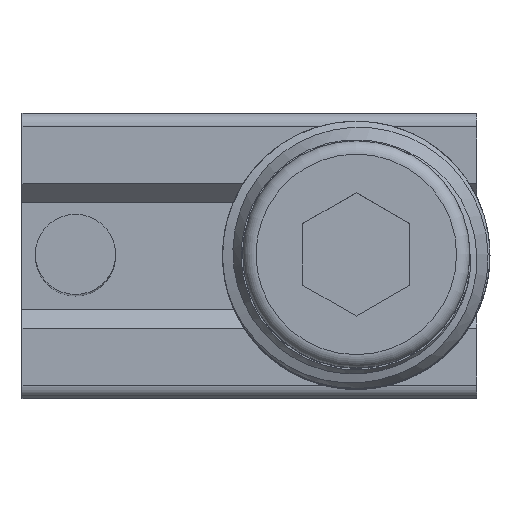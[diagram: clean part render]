
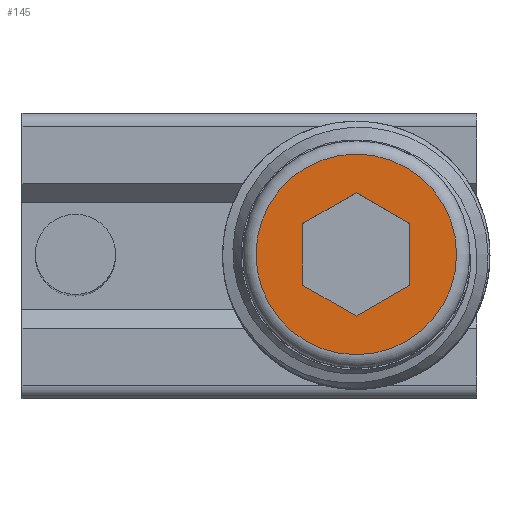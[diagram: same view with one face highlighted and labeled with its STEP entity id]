
A CAD part, top view. The second image highlights one B-rep face of the part: STEP entity #145.
In plain terms, the highlighted planar face has unit normal (0, 0, 1).
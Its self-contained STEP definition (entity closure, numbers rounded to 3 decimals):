
#145 = ADVANCED_FACE( '', ( #293, #294 ), #295, .F. );
#293 = FACE_OUTER_BOUND( '', #1179, .T. );
#294 = FACE_BOUND( '', #1180, .T. );
#295 = PLANE( '', #1181 );
#1179 = EDGE_LOOP( '', ( #1496 ) );
#1180 = EDGE_LOOP( '', ( #1497, #1498, #1499, #1500, #1501, #1502 ) );
#1181 = AXIS2_PLACEMENT_3D( '', #1503, #1504, #1505 );
#1496 = ORIENTED_EDGE( '', *, *, #1575, .T. );
#1497 = ORIENTED_EDGE( '', *, *, #1649, .F. );
#1498 = ORIENTED_EDGE( '', *, *, #1614, .F. );
#1499 = ORIENTED_EDGE( '', *, *, #1658, .F. );
#1500 = ORIENTED_EDGE( '', *, *, #1602, .F. );
#1501 = ORIENTED_EDGE( '', *, *, #1611, .F. );
#1502 = ORIENTED_EDGE( '', *, *, #1668, .F. );
#1503 = CARTESIAN_POINT( '', ( 0., 0., 5. ) );
#1504 = DIRECTION( '', ( 0., 0., -1. ) );
#1505 = DIRECTION( '', ( -1., 0., 0. ) );
#1575 = EDGE_CURVE( '', #1728, #1728, #1729, .F. );
#1602 = EDGE_CURVE( '', #1775, #1776, #1777, .T. );
#1611 = EDGE_CURVE( '', #1789, #1775, #1790, .T. );
#1614 = EDGE_CURVE( '', #1793, #1794, #1795, .T. );
#1649 = EDGE_CURVE( '', #1794, #1841, #1842, .T. );
#1658 = EDGE_CURVE( '', #1776, #1793, #1853, .T. );
#1668 = EDGE_CURVE( '', #1841, #1789, #1864, .T. );
#1728 = VERTEX_POINT( '', #2060 );
#1729 = CIRCLE( '', #2061, 3.75 );
#1775 = VERTEX_POINT( '', #2117 );
#1776 = VERTEX_POINT( '', #2118 );
#1777 = LINE( '', #2119, #2120 );
#1789 = VERTEX_POINT( '', #2475 );
#1790 = LINE( '', #2476, #2477 );
#1793 = VERTEX_POINT( '', #2481 );
#1794 = VERTEX_POINT( '', #2482 );
#1795 = LINE( '', #2483, #2484 );
#1841 = VERTEX_POINT( '', #2751 );
#1842 = LINE( '', #2752, #2753 );
#1853 = LINE( '', #2812, #2813 );
#1864 = LINE( '', #2841, #2842 );
#2060 = CARTESIAN_POINT( '', ( -3.75, 0., 5. ) );
#2061 = AXIS2_PLACEMENT_3D( '', #2896, #2897, #2898 );
#2117 = CARTESIAN_POINT( '', ( -2., 1.155, 5. ) );
#2118 = CARTESIAN_POINT( '', ( -2., -1.155, 5. ) );
#2119 = CARTESIAN_POINT( '', ( -2., 1.155, 5. ) );
#2120 = VECTOR( '', #2942, 1000. );
#2475 = CARTESIAN_POINT( '', ( 0., 2.309, 5. ) );
#2476 = CARTESIAN_POINT( '', ( 0., 2.309, 5. ) );
#2477 = VECTOR( '', #2949, 1000. );
#2481 = CARTESIAN_POINT( '', ( 0., -2.309, 5. ) );
#2482 = CARTESIAN_POINT( '', ( 2., -1.155, 5. ) );
#2483 = CARTESIAN_POINT( '', ( 0., -2.309, 5. ) );
#2484 = VECTOR( '', #2951, 1000. );
#2751 = CARTESIAN_POINT( '', ( 2., 1.155, 5. ) );
#2752 = CARTESIAN_POINT( '', ( 2., -1.155, 5. ) );
#2753 = VECTOR( '', #2985, 1000. );
#2812 = CARTESIAN_POINT( '', ( -2., -1.155, 5. ) );
#2813 = VECTOR( '', #2991, 1000. );
#2841 = CARTESIAN_POINT( '', ( 2., 1.155, 5. ) );
#2842 = VECTOR( '', #2996, 1000. );
#2896 = CARTESIAN_POINT( '', ( 0., 0., 5. ) );
#2897 = DIRECTION( '', ( 0., 0., -1. ) );
#2898 = DIRECTION( '', ( -1., 0., 0. ) );
#2942 = DIRECTION( '', ( 0., -1., 0. ) );
#2949 = DIRECTION( '', ( -0.866, -0.5, 0. ) );
#2951 = DIRECTION( '', ( 0.866, 0.5, 0. ) );
#2985 = DIRECTION( '', ( 0., 1., 0. ) );
#2991 = DIRECTION( '', ( 0.866, -0.5, 0. ) );
#2996 = DIRECTION( '', ( -0.866, 0.5, 0. ) );
